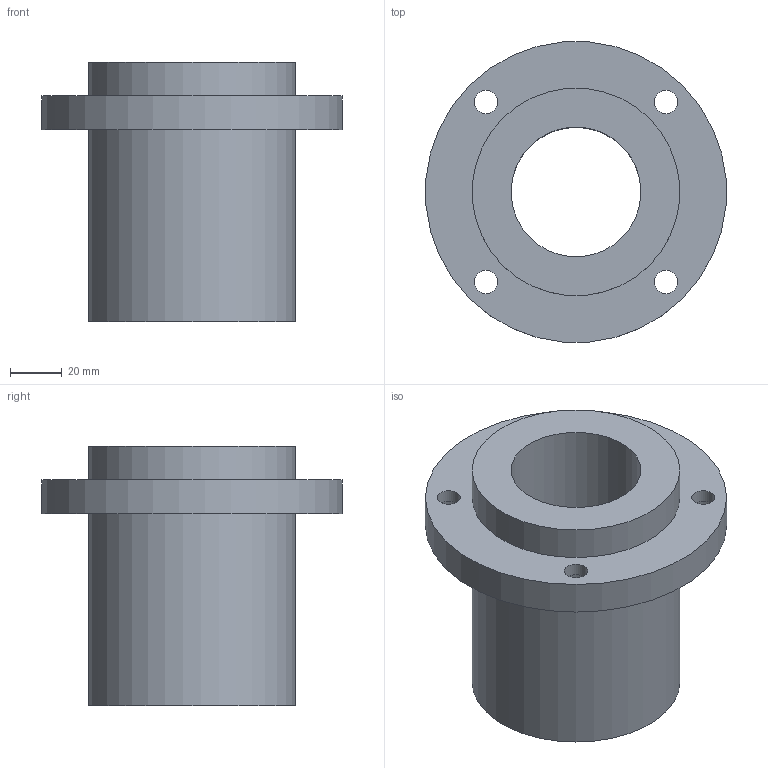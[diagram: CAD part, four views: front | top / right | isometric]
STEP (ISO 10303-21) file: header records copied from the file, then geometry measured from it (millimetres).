
FILE_DESCRIPTION(/* description */ (''),/* implementation_level */ '2;1');
FILE_NAME(/* name */ 'LMFP50UU',/* time_stamp */ '2019-07-03T11:34:01+02:00',/* author */ ('VĂ©gh MĂˇtĂ©'),/* organization */ ('Bearing Kft'),/* preprocessor_version */ 'ST-DEVELOPER v16.7',/* originating_system */ 'DEX',/* authorisation */ $);
FILE_SCHEMA (('AUTOMOTIVE_DESIGN {1 0 10303 214 3 1 1}'));
Length unit declared in the file: millimetre
Products named in the file (1): LMFP50UU
Bounding box: 115.56 x 115.56 x 100 mm (x, y, z)
Volume: 372098.1 mm3; surface area: 61032.3 mm2
Topology: 1 solids, 1 shells, 328 faces, 820 edges, 548 vertices
Faces by surface type: plane 253, bspline 61, cylinder 14
Full cylindrical faces by diameter (mm): 9 x4, 14 x4, 50 x1, 80 x2, 116 x1
Entity records: 13175 total; most frequent: CARTESIAN_POINT 5733, ORIENTED_EDGE 1602, DIRECTION 1243, EDGE_CURVE 801, LINE 651, VECTOR 651, VERTEX_POINT 544, EDGE_LOOP 407
